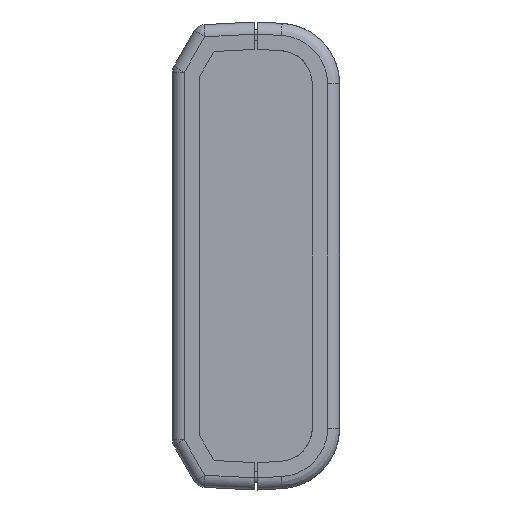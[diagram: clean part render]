
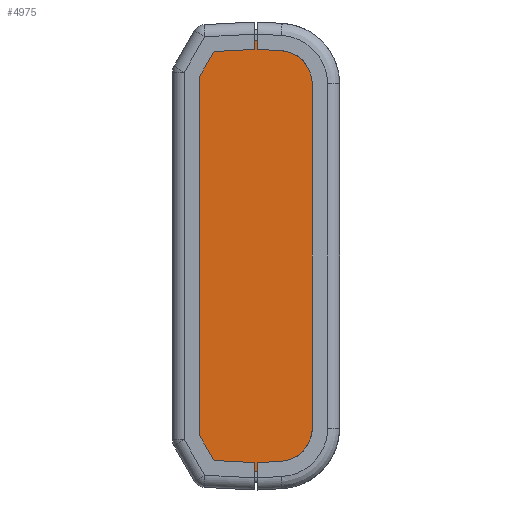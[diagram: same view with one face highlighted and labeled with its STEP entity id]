
A CAD part, left-side view. The second image highlights one B-rep face of the part: STEP entity #4975.
In plain terms, the highlighted planar face has unit normal (-1, 0, 0) as drawn and (0, 0, -1) by its records, which use the part's own axes.
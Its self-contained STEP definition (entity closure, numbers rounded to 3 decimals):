
#16 = VERTEX_POINT ( 'NONE', #8597 ) ;
#328 = VERTEX_POINT ( 'NONE', #2098 ) ;
#423 = EDGE_CURVE ( 'NONE', #8929, #5198, #2605, .T. ) ;
#458 = EDGE_CURVE ( 'NONE', #5198, #9455, #6452, .T. ) ;
#606 = EDGE_CURVE ( 'NONE', #7389, #7864, #5723, .T. ) ;
#612 = VECTOR ( 'NONE', #4264, 1000. ) ;
#820 = ORIENTED_EDGE ( 'NONE', *, *, #8542, .F. ) ;
#869 = ORIENTED_EDGE ( 'NONE', *, *, #423, .F. ) ;
#1118 = LINE ( 'NONE', #1259, #9032 ) ;
#1137 = CARTESIAN_POINT ( 'NONE',  ( 35.263, -4.125, -1.6 ) ) ;
#1259 = CARTESIAN_POINT ( 'NONE',  ( -30.083, 10.598, -1.6 ) ) ;
#1317 = PLANE ( 'NONE',  #5587 ) ;
#1371 = ORIENTED_EDGE ( 'NONE', *, *, #8932, .F. ) ;
#1395 = CARTESIAN_POINT ( 'NONE',  ( 28.444, -10.595, -1.6 ) ) ;
#1732 = EDGE_CURVE ( 'NONE', #9455, #328, #8696, .T. ) ;
#2042 = CARTESIAN_POINT ( 'NONE',  ( -35.074, 7.716, -1.6 ) ) ;
#2076 = ORIENTED_EDGE ( 'NONE', *, *, #6058, .F. ) ;
#2098 = CARTESIAN_POINT ( 'NONE',  ( 35.074, 7.716, -1.6 ) ) ;
#2104 = CARTESIAN_POINT ( 'NONE',  ( -28.444, -10.595, -1.6 ) ) ;
#2133 = VECTOR ( 'NONE', #7399, 1000. ) ;
#2496 = CARTESIAN_POINT ( 'NONE',  ( 30.083, 10.598, -1.6 ) ) ;
#2555 = VECTOR ( 'NONE', #3270, 1000. ) ;
#2605 = CIRCLE ( 'NONE', #2621, 6.827 ) ;
#2621 = AXIS2_PLACEMENT_3D ( 'NONE', #5420, #3897, #3154 ) ;
#2803 = DIRECTION ( 'NONE',  ( -1., 0., 0. ) ) ;
#2819 = DIRECTION ( 'NONE',  ( -0.866, -0.5, 0. ) ) ;
#2860 = DIRECTION ( 'NONE',  ( 1., 0., 0. ) ) ;
#2865 = VERTEX_POINT ( 'NONE', #8825 ) ;
#2958 = ORIENTED_EDGE ( 'NONE', *, *, #458, .F. ) ;
#3118 = LINE ( 'NONE', #9060, #4865 ) ;
#3154 = DIRECTION ( 'NONE',  ( 1., 0., 0. ) ) ;
#3196 = EDGE_CURVE ( 'NONE', #16, #7389, #1118, .T. ) ;
#3215 = VERTEX_POINT ( 'NONE', #8928 ) ;
#3270 = DIRECTION ( 'NONE',  ( -0.866, 0.5, 0. ) ) ;
#3454 = EDGE_LOOP ( 'NONE', ( #869, #7481, #820, #1371, #2076, #3910, #8459, #8559, #8254, #2958 ) ) ;
#3515 = CARTESIAN_POINT ( 'NONE',  ( -35.479, 0.001, -1.6 ) ) ;
#3560 = CARTESIAN_POINT ( 'NONE',  ( 35.074, 7.716, -1.6 ) ) ;
#3585 = EDGE_CURVE ( 'NONE', #328, #16, #8903, .T. ) ;
#3711 = LINE ( 'NONE', #2104, #9580 ) ;
#3897 = DIRECTION ( 'NONE',  ( 0., 0., 1. ) ) ;
#3910 = ORIENTED_EDGE ( 'NONE', *, *, #606, .F. ) ;
#3953 = DIRECTION ( 'NONE',  ( 0., 0., 1. ) ) ;
#4180 = LINE ( 'NONE', #3515, #612 ) ;
#4264 = DIRECTION ( 'NONE',  ( -0.052, -0.999, 0. ) ) ;
#4401 = DIRECTION ( 'NONE',  ( 1., 0., 0. ) ) ;
#4675 = FACE_OUTER_BOUND ( 'NONE', #3454, .T. ) ;
#4865 = VECTOR ( 'NONE', #5225, 1000. ) ;
#4975 = ADVANCED_FACE ( 'NONE', ( #4675 ), #1317, .F. ) ;
#5069 = DIRECTION ( 'NONE',  ( -0.052, 0.999, 0. ) ) ;
#5198 = VERTEX_POINT ( 'NONE', #8642 ) ;
#5225 = DIRECTION ( 'NONE',  ( 0.052, -0.999, 0. ) ) ;
#5420 = CARTESIAN_POINT ( 'NONE',  ( 28.444, -3.767, -1.6 ) ) ;
#5475 = VERTEX_POINT ( 'NONE', #5958 ) ;
#5587 = AXIS2_PLACEMENT_3D ( 'NONE', #9723, #7464, #2860 ) ;
#5723 = LINE ( 'NONE', #2042, #8606 ) ;
#5757 = CARTESIAN_POINT ( 'NONE',  ( -30.083, 10.598, -1.6 ) ) ;
#5958 = CARTESIAN_POINT ( 'NONE',  ( -28.444, -10.595, -1.6 ) ) ;
#6058 = EDGE_CURVE ( 'NONE', #7864, #3215, #4180, .T. ) ;
#6452 = LINE ( 'NONE', #1137, #2133 ) ;
#6665 = VECTOR ( 'NONE', #5069, 1000. ) ;
#6941 = AXIS2_PLACEMENT_3D ( 'NONE', #8562, #3953, #9330 ) ;
#7159 = CARTESIAN_POINT ( 'NONE',  ( 35.479, 0.001, -1.6 ) ) ;
#7389 = VERTEX_POINT ( 'NONE', #5757 ) ;
#7399 = DIRECTION ( 'NONE',  ( 0.052, 0.999, 0. ) ) ;
#7464 = DIRECTION ( 'NONE',  ( 0., 0., 1. ) ) ;
#7481 = ORIENTED_EDGE ( 'NONE', *, *, #9360, .F. ) ;
#7864 = VERTEX_POINT ( 'NONE', #8006 ) ;
#8006 = CARTESIAN_POINT ( 'NONE',  ( -35.074, 7.716, -1.6 ) ) ;
#8254 = ORIENTED_EDGE ( 'NONE', *, *, #1732, .F. ) ;
#8459 = ORIENTED_EDGE ( 'NONE', *, *, #3196, .F. ) ;
#8542 = EDGE_CURVE ( 'NONE', #2865, #5475, #9792, .T. ) ;
#8559 = ORIENTED_EDGE ( 'NONE', *, *, #3585, .F. ) ;
#8562 = CARTESIAN_POINT ( 'NONE',  ( -28.444, -3.767, -1.6 ) ) ;
#8597 = CARTESIAN_POINT ( 'NONE',  ( 30.083, 10.598, -1.6 ) ) ;
#8606 = VECTOR ( 'NONE', #2819, 1000. ) ;
#8642 = CARTESIAN_POINT ( 'NONE',  ( 35.263, -4.125, -1.6 ) ) ;
#8696 = LINE ( 'NONE', #3560, #6665 ) ;
#8825 = CARTESIAN_POINT ( 'NONE',  ( -35.263, -4.125, -1.6 ) ) ;
#8903 = LINE ( 'NONE', #2496, #2555 ) ;
#8928 = CARTESIAN_POINT ( 'NONE',  ( -35.479, 0.001, -1.6 ) ) ;
#8929 = VERTEX_POINT ( 'NONE', #1395 ) ;
#8932 = EDGE_CURVE ( 'NONE', #3215, #2865, #3118, .T. ) ;
#9032 = VECTOR ( 'NONE', #2803, 1000. ) ;
#9060 = CARTESIAN_POINT ( 'NONE',  ( -35.479, 0.001, -1.6 ) ) ;
#9330 = DIRECTION ( 'NONE',  ( 1., 0., 0. ) ) ;
#9360 = EDGE_CURVE ( 'NONE', #5475, #8929, #3711, .T. ) ;
#9455 = VERTEX_POINT ( 'NONE', #7159 ) ;
#9580 = VECTOR ( 'NONE', #4401, 1000. ) ;
#9723 = CARTESIAN_POINT ( 'NONE',  ( 28.444, -3.767, -1.6 ) ) ;
#9792 = CIRCLE ( 'NONE', #6941, 6.828 ) ;
